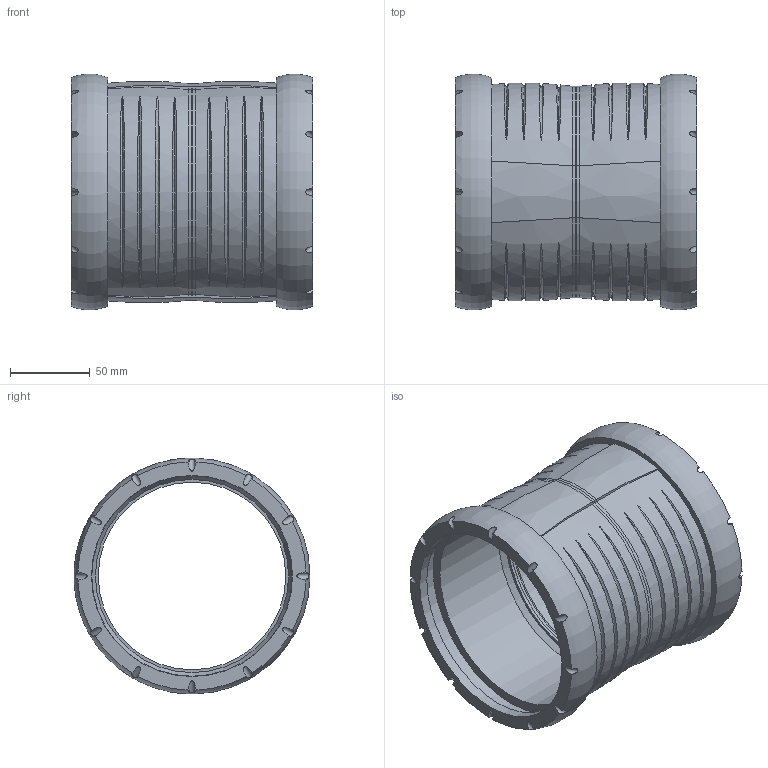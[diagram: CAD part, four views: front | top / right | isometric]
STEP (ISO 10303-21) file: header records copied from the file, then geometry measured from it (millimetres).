
FILE_DESCRIPTION(/* description */ (''),/* implementation_level */ '2;1');
FILE_NAME(/* name */ 'H:\Geberit-Teile\Export\Doppelsteckmuffe\stp\393616.stp',/* time_stamp */ '2017-02-14T08:58:31+01:00',/* author */ ('seihe2'),/* organization */ (''),/* preprocessor_version */ 'ST-DEVELOPER v15.2',/* originating_system */ 'Autodesk Inventor 2014',/* authorisation */ '');
FILE_SCHEMA (('AUTOMOTIVE_DESIGN { 1 0 10303 214 3 1 1 }'));
Length unit declared in the file: millimetre
Products named in the file (1): 393616
Bounding box: 151.6 x 148.33 x 148.36 mm (x, y, z)
Volume: 374141.5 mm3; surface area: 160470 mm2
Topology: 2 solids, 2 shells, 108 faces, 258 edges, 178 vertices
Faces by surface type: bspline 56, cylinder 36, plane 12, torus 2, cone 2
Full cylindrical faces by diameter (mm): 117.9 x2, 126 x2, 126.4 x2, 138.1 x2
Entity records: 7795 total; most frequent: CARTESIAN_POINT 5577, ORIENTED_EDGE 480, DIRECTION 306, EDGE_CURVE 240, VERTEX_POINT 172, EDGE_LOOP 148, AXIS2_PLACEMENT_3D 145, B_SPLINE_CURVE_WITH_KNOTS 132
